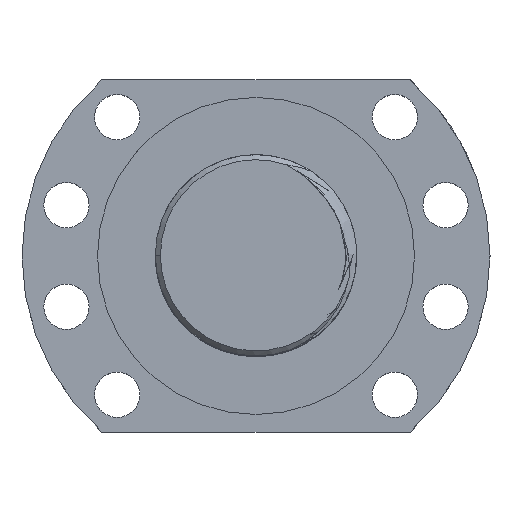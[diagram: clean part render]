
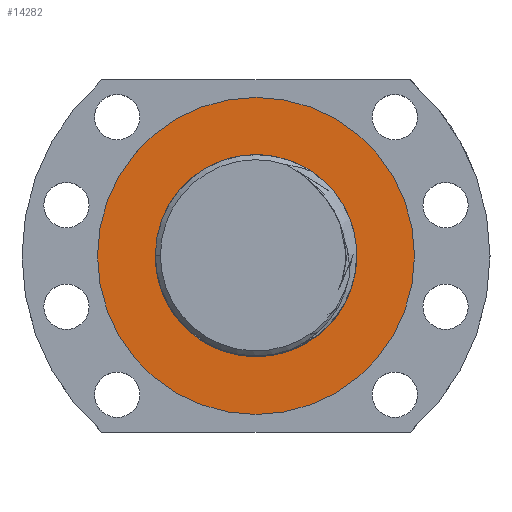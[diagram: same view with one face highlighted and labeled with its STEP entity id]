
A CAD part, top view. The second image highlights one B-rep face of the part: STEP entity #14282.
In plain terms, the highlighted planar face has unit normal (0, 0, 1) as drawn and (0, -1, 0) by its records, which use the part's own axes.
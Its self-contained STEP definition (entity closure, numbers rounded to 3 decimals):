
#771 = EDGE_CURVE ( 'NONE', #2886, #18305, #18502, .T. ) ;
#2162 = AXIS2_PLACEMENT_3D ( 'NONE', #11660, #13310, #10103 ) ;
#2209 = CARTESIAN_POINT ( 'NONE',  ( 0., -27.5, -20. ) ) ;
#2457 = DIRECTION ( 'NONE',  ( 1., 0., 0. ) ) ;
#2669 = ORIENTED_EDGE ( 'NONE', *, *, #17851, .F. ) ;
#2789 = DIRECTION ( 'NONE',  ( 1., 0., 0. ) ) ;
#2886 = VERTEX_POINT ( 'NONE', #5248 ) ;
#3384 = FACE_BOUND ( 'NONE', #11736, .T. ) ;
#3447 = ORIENTED_EDGE ( 'NONE', *, *, #17788, .F. ) ;
#4577 = EDGE_CURVE ( 'NONE', #18305, #2886, #9639, .T. ) ;
#4931 = PLANE ( 'NONE',  #2162 ) ;
#5061 = AXIS2_PLACEMENT_3D ( 'NONE', #7585, #12317, #17712 ) ;
#5248 = CARTESIAN_POINT ( 'NONE',  ( 0., -27.5, 20. ) ) ;
#5289 = CARTESIAN_POINT ( 'NONE',  ( 0., -27.5, -31.5 ) ) ;
#5783 = DIRECTION ( 'NONE',  ( 0., -1., 0. ) ) ;
#6111 = DIRECTION ( 'NONE',  ( 1., 0., 0. ) ) ;
#7585 = CARTESIAN_POINT ( 'NONE',  ( 0., -27.5, 0. ) ) ;
#8022 = FACE_OUTER_BOUND ( 'NONE', #11955, .T. ) ;
#8561 = ORIENTED_EDGE ( 'NONE', *, *, #4577, .F. ) ;
#8643 = VERTEX_POINT ( 'NONE', #5289 ) ;
#8892 = AXIS2_PLACEMENT_3D ( 'NONE', #17780, #19753, #6111 ) ;
#9080 = CARTESIAN_POINT ( 'NONE',  ( 0., -27.5, 0. ) ) ;
#9235 = CIRCLE ( 'NONE', #8892, 31.5 ) ;
#9639 = CIRCLE ( 'NONE', #5061, 20. ) ;
#9952 = ORIENTED_EDGE ( 'NONE', *, *, #771, .F. ) ;
#10103 = DIRECTION ( 'NONE',  ( 1., 0., 0. ) ) ;
#10805 = CARTESIAN_POINT ( 'NONE',  ( 0., -27.5, 31.5 ) ) ;
#11660 = CARTESIAN_POINT ( 'NONE',  ( 0., -27.5, 0. ) ) ;
#11736 = EDGE_LOOP ( 'NONE', ( #8561, #9952 ) ) ;
#11955 = EDGE_LOOP ( 'NONE', ( #3447, #2669 ) ) ;
#12317 = DIRECTION ( 'NONE',  ( 0., -1., 0. ) ) ;
#13310 = DIRECTION ( 'NONE',  ( 0., 1., 0. ) ) ;
#14282 = ADVANCED_FACE ( 'NONE', ( #8022, #3384 ), #4931, .F. ) ;
#15222 = CIRCLE ( 'NONE', #15926, 31.5 ) ;
#15926 = AXIS2_PLACEMENT_3D ( 'NONE', #16358, #17668, #2789 ) ;
#16048 = AXIS2_PLACEMENT_3D ( 'NONE', #9080, #5783, #2457 ) ;
#16358 = CARTESIAN_POINT ( 'NONE',  ( 0., -27.5, 0. ) ) ;
#16698 = VERTEX_POINT ( 'NONE', #10805 ) ;
#17668 = DIRECTION ( 'NONE',  ( 0., 1., 0. ) ) ;
#17712 = DIRECTION ( 'NONE',  ( 1., 0., 0. ) ) ;
#17780 = CARTESIAN_POINT ( 'NONE',  ( 0., -27.5, 0. ) ) ;
#17788 = EDGE_CURVE ( 'NONE', #8643, #16698, #15222, .T. ) ;
#17851 = EDGE_CURVE ( 'NONE', #16698, #8643, #9235, .T. ) ;
#18305 = VERTEX_POINT ( 'NONE', #2209 ) ;
#18502 = CIRCLE ( 'NONE', #16048, 20. ) ;
#19753 = DIRECTION ( 'NONE',  ( 0., 1., 0. ) ) ;
